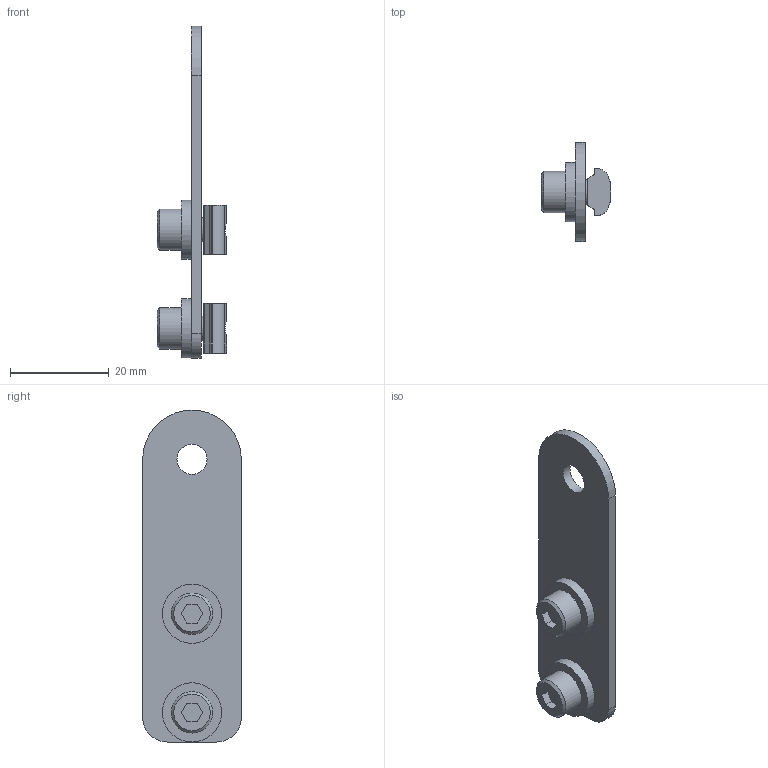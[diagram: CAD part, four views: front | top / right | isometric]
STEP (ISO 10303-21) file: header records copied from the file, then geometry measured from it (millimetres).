
FILE_DESCRIPTION(('STEP AP214'),'1');
FILE_NAME('GS31.stp','2021-12-27T06:43:32',(' '),(' '),'Spatial InterOp 3D',' ',' ');
FILE_SCHEMA(('AUTOMOTIVE_DESIGN { 1 0 10303 214 1 1 1 1 }'));
Length unit declared in the file: millimetre
Products named in the file (8): GS31; NF25-M5; パーツ66; ねじ: 穴付き - M5.0 x 8.0
Assembly tree (7 placements, depth 2):
  GS31
    GS31
    NF25-M5
    パーツ66
    ねじ: 穴付き - M5.0 x 8.0
    パーツ66
    ねじ: 穴付き - M5.0 x 8.0
    NF25-M5
Bounding box: 14.13 x 20 x 67.3 mm (x, y, z)
Volume: 4149.3 mm3; surface area: 4902.4 mm2
Topology: 7 solids, 7 shells, 97 faces, 241 edges, 160 vertices
Faces by surface type: plane 55, cylinder 38, cone 4
Full cylindrical faces by diameter (mm): 5 x2, 5.1 x2, 5.5 x2, 6.1 x1, 8.385 x2, 12 x2
Entity records: 3803 total; most frequent: CARTESIAN_POINT 527, DIRECTION 506, ORIENTED_EDGE 448, EDGE_CURVE 224, AXIS2_PLACEMENT_3D 185, VERTEX_POINT 158, LINE 136, VECTOR 136
